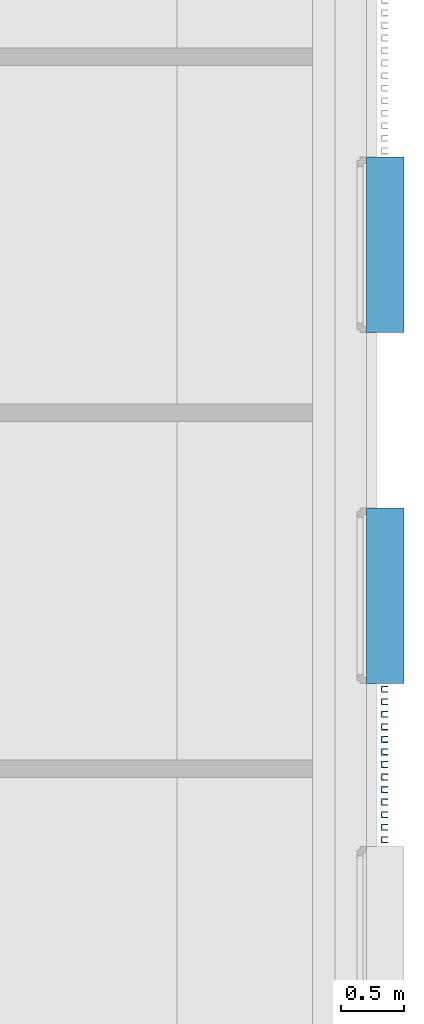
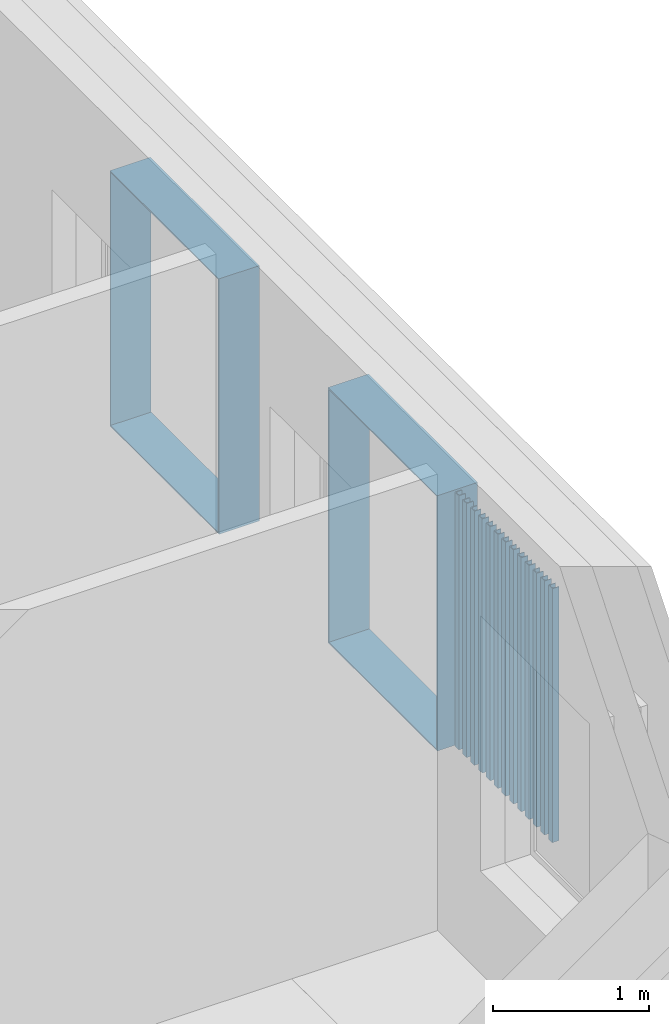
# One storey, part 30 of 100: 15 discrete accessories.
"""IFC2X3 building model written with IfcOpenShell, lengths in millimetres."""

from ifc_helpers import new_model, entity, si_unit, converted_unit, derived_unit, money_unit, direction, frame, origin_with_axes, place, context, subcontext, project, spatial, faceted_brep, source, transform, mapped, material, type_object, element, save


model = new_model("IFC2X3")

# Units and contexts
model_context = context("Model", 3, precision=0.01, world=origin_with_axes(), true_north=direction((0.0, 1.0)))
body_context = subcontext(model_context, "Body", "Model", "MODEL_VIEW")
ifc_project = project(units=[si_unit("LENGTHUNIT", "METRE", prefix="MILLI"), si_unit("AREAUNIT", "SQUARE_METRE"), si_unit("VOLUMEUNIT", "CUBIC_METRE"), converted_unit("PLANEANGLEUNIT", "DEGREE", entity("IfcPlaneAngleMeasure", 0.0174532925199), si_unit("PLANEANGLEUNIT", "RADIAN"), dimensions=[0, 0, 0, 0, 0, 0, 0]), si_unit("SOLIDANGLEUNIT", "STERADIAN"), money_unit("EUR"), converted_unit("TIMEUNIT", "Year", entity("IfcTimeMeasure", 31556926.0), si_unit("TIMEUNIT", "SECOND"), dimensions=[0, 0, 1, 0, 0, 0, 0]), si_unit("MASSUNIT", "GRAM", prefix="KILO"), si_unit("THERMODYNAMICTEMPERATUREUNIT", "DEGREE_CELSIUS"), si_unit("LUMINOUSINTENSITYUNIT", "LUMEN"), si_unit("ENERGYUNIT", "JOULE", prefix="MEGA"), derived_unit("THERMALCONDUCTANCEUNIT", [(si_unit("POWERUNIT", "WATT"), 1), (si_unit("LENGTHUNIT", "METRE"), -1), (si_unit("THERMODYNAMICTEMPERATUREUNIT", "KELVIN"), -1)]), derived_unit("SPECIFICHEATCAPACITYUNIT", [(si_unit("ENERGYUNIT", "JOULE"), 1), (si_unit("MASSUNIT", "GRAM", prefix="KILO"), -1), (si_unit("THERMODYNAMICTEMPERATUREUNIT", "KELVIN"), -1)]), derived_unit("MASSDENSITYUNIT", [(si_unit("MASSUNIT", "GRAM", prefix="KILO"), 1), (si_unit("VOLUMEUNIT", "CUBIC_METRE"), -1)])], contexts=[model_context])

# Site, building, storey
site_placement = place(None, origin_with_axes())
site = spatial("IfcSite", under=ifc_project, at=site_placement, Name="Politse- ja Piirivalveameti ning Päästeameti ühishoone", CompositionType="ELEMENT")
building_placement = place(site_placement, origin_with_axes())
building = spatial("IfcBuilding", under=site, at=building_placement, Name="Politse- ja Piirivalveameti ning Päästeameti ühishoone", CompositionType="ELEMENT")
storey_placement = place(building_placement, frame((0.0, 0.0, 3800.0), z_axis=(0.0, 0.0, 1.0), x_axis=(1.0, 0.0, 0.0)))
storey = spatial("IfcBuildingStorey", under=building, at=storey_placement, Name="Teine korrus", CompositionType="ELEMENT", Elevation=3800.0)

# Discrete accessories
ifc_material_1 = material(Name="SV-01_Krohv - Kips")
discrete_accessory_type_1 = type_object("IfcDiscreteAccessoryType", Name="Architrave 01 23")
shared_shape_1 = source(origin_with_axes(), body_context, "Body", "Brep", [
    faceted_brep([(-700.0, 0.0, -10.0), (700.0, 0.0, -10.0), (700.0, -300.182356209, -10.0), (-700.0, -300.182356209, -10.0), (-690.0, 0.0, 0.0), (690.0, 0.0, 0.0), (690.0, -300.182356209, 0.0), (-690.0, -300.182356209, 0.0)], [[[0, 1, 2, 3]], [[0, 4, 5, 1]], [[1, 5, 6, 2]], [[3, 2, 6, 7]], [[4, 0, 3, 7]], [[5, 4, 7, 6]]]),
    faceted_brep([(700.0, 0.0, -10.0), (700.0, 0.0, 1990.0), (700.0, -300.182356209, 1990.0), (700.0, -300.182356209, -10.0), (690.0, 0.0, 0.0), (690.0, 0.0, 1980.0), (690.0, -300.182356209, 1980.0), (690.0, -300.182356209, 0.0)], [[[0, 1, 2, 3]], [[0, 4, 5, 1]], [[1, 5, 6, 2]], [[3, 2, 6, 7]], [[4, 0, 3, 7]], [[5, 4, 7, 6]]]),
    faceted_brep([(700.0, 0.0, 1990.0), (-700.0, 0.0, 1990.0), (-700.0, -300.182356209, 1990.0), (700.0, -300.182356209, 1990.0), (690.0, 0.0, 1980.0), (-690.0, 0.0, 1980.0), (-690.0, -300.182356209, 1980.0), (690.0, -300.182356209, 1980.0)], [[[0, 1, 2, 3]], [[0, 4, 5, 1]], [[1, 5, 6, 2]], [[3, 2, 6, 7]], [[4, 0, 3, 7]], [[5, 4, 7, 6]]]),
    faceted_brep([(-700.0, 0.0, 1990.0), (-700.0, 0.0, -10.0), (-700.0, -300.182356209, -10.0), (-700.0, -300.182356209, 1990.0), (-690.0, 0.0, 1980.0), (-690.0, 0.0, 0.0), (-690.0, -300.182356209, 0.0), (-690.0, -300.182356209, 1980.0)], [[[0, 1, 2, 3]], [[0, 4, 5, 1]], [[1, 5, 6, 2]], [[3, 2, 6, 7]], [[4, 0, 3, 7]], [[5, 4, 7, 6]]]),
])
for number, where, z_axis, x_axis, name in (
    (1, (70090.5664192, 4149.95208321, 810.000049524), (0.0, 0.0, 1.0), (0.0, 1.0, 0.0), "AKNARAAM 01"),
    (2, (70090.5664257, 6949.95208321, 810.0), (0.0, 0.0, 1.0), (0.0, 1.0, 0.0), "AKNARAAM 01"),
):
    element("IfcDiscreteAccessory", number, at=place(storey_placement, frame(where, z_axis=z_axis, x_axis=x_axis)), inside=storey, type_object=discrete_accessory_type_1, material=ifc_material_1, Name=name, context=body_context, shape_type="MappedRepresentation", body=[
        mapped(shared_shape_1, transform((0.0, 0.0, 0.0))),
    ])
ifc_material_2 = material(Name="ET-05_Teras")
discrete_accessory_type_2 = type_object("IfcDiscreteAccessoryType", Name="UAP Column 23")
shared_shape_2 = source(origin_with_axes(), body_context, "Body", "Brep", [
    faceted_brep([(25.0, -25.0, 0.0), (25.0, -20.0, 0.0), (25.0, -20.0, 1990.0), (25.0, -25.0, 1990.0), (-25.0, -25.0, 0.0), (-25.0, 25.0, 0.0), (25.0, 25.0, 0.0), (25.0, 20.0, 0.0), (-8.5, 20.0, 0.0), (-14.25, 18.4592921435, 0.0), (-18.4592921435, 14.25, 0.0), (-20.0, 8.5, 0.0), (-20.0, -8.5, 0.0), (-18.4592921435, -14.25, 0.0), (-14.25, -18.4592921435, 0.0), (-8.5, -20.0, 0.0), (-8.5, -20.0, 1990.0), (-14.25, -18.4592921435, 1990.0), (-18.4592921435, -14.25, 1990.0), (-20.0, -8.5, 1990.0), (-20.0, 8.5, 1990.0), (-18.4592921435, 14.25, 1990.0), (-14.25, 18.4592921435, 1990.0), (-8.5, 20.0, 1990.0), (25.0, 20.0, 1990.0), (25.0, 25.0, 1990.0), (-25.0, 25.0, 1990.0), (-25.0, -25.0, 1990.0)], [[[0, 1, 2, 3]], [[0, 4, 5, 6, 7, 8, 9, 10, 11, 12, 13, 14, 15, 1]], [[1, 15, 16, 2]], [[3, 2, 16, 17, 18, 19, 20, 21, 22, 23, 24, 25, 26, 27]], [[4, 0, 3, 27]], [[5, 4, 27, 26]], [[6, 5, 26, 25]], [[7, 6, 25, 24]], [[8, 7, 24, 23]], [[9, 8, 23, 22]], [[10, 9, 22, 21]], [[11, 10, 21, 20]], [[12, 11, 20, 19]], [[13, 12, 19, 18]], [[14, 13, 18, 17]], [[15, 14, 17, 16]]]),
])
for number, where, z_axis, x_axis in (
    (3, (70235.2095212, 2205.03193435, 810.000049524), (0.0, 0.0, 1.0), (1.0, 0.0, 0.0)),
    (4, (70235.2095212, 2305.03193435, 810.000049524), (0.0, 0.0, 1.0), (1.0, 0.0, 0.0)),
    (5, (70235.2095212, 2405.03193435, 810.000049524), (0.0, 0.0, 1.0), (1.0, 0.0, 0.0)),
    (6, (70235.2095212, 2505.03193435, 810.000049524), (0.0, 0.0, 1.0), (1.0, 0.0, 0.0)),
    (7, (70235.2095212, 2605.03193435, 810.000049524), (0.0, 0.0, 1.0), (1.0, 0.0, 0.0)),
    (8, (70235.2095212, 2705.03193435, 810.000049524), (0.0, 0.0, 1.0), (1.0, 0.0, 0.0)),
    (9, (70235.2095212, 2805.03193435, 810.000049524), (0.0, 0.0, 1.0), (1.0, 0.0, 0.0)),
    (10, (70235.2095212, 2905.03193435, 810.000049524), (0.0, 0.0, 1.0), (1.0, 0.0, 0.0)),
    (11, (70235.2095212, 3005.03193435, 810.000049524), (0.0, 0.0, 1.0), (1.0, 0.0, 0.0)),
    (12, (70235.2095212, 3105.03193435, 810.000049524), (0.0, 0.0, 1.0), (1.0, 0.0, 0.0)),
    (13, (70235.2095212, 3205.03193435, 810.000049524), (0.0, 0.0, 1.0), (1.0, 0.0, 0.0)),
    (14, (70235.2095212, 3305.03193435, 810.000049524), (0.0, 0.0, 1.0), (1.0, 0.0, 0.0)),
    (15, (70235.2095212, 3405.03193435, 810.000049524), (0.0, 0.0, 1.0), (1.0, 0.0, 0.0)),
):
    element("IfcDiscreteAccessory", number, at=place(storey_placement, frame(where, z_axis=z_axis, x_axis=x_axis)), inside=storey, type_object=discrete_accessory_type_2, material=ifc_material_2, Name="Fassaadiribid", context=body_context, shape_type="MappedRepresentation", body=[
        mapped(shared_shape_2, transform((0.0, 0.0, 0.0))),
    ])

save(model, "model.ifc")
